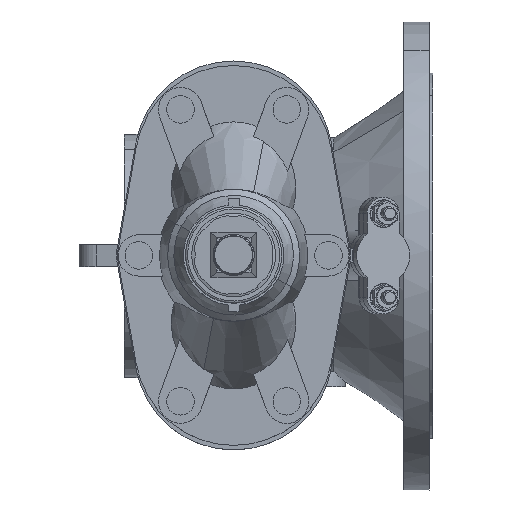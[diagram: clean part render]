
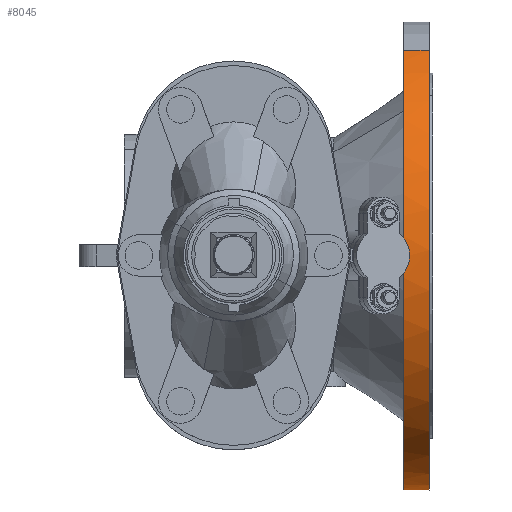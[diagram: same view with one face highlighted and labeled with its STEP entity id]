
A CAD part, top view. The second image highlights one B-rep face of the part: STEP entity #8045.
In plain terms, the highlighted cylindrical face has radius 170.3 mm (diameter 340.6 mm), a partial arc.
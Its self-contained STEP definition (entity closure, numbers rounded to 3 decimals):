
#7384=AXIS2_PLACEMENT_3D('Circle Axis2P3D',#7382,#7383,$) ;
#8006=AXIS2_PLACEMENT_3D('Cylinder Axis2P3D',#8003,#8004,#8005) ;
#8036=AXIS2_PLACEMENT_3D('Circle Axis2P3D',#8034,#8035,$) ;
#7382=CARTESIAN_POINT('Axis2P3D Location',(123.75,0.,0.)) ;
#7386=CARTESIAN_POINT('Vertex',(123.75,149.452,81.646)) ;
#7388=CARTESIAN_POINT('Vertex',(123.75,-149.452,-81.646)) ;
#8003=CARTESIAN_POINT('Axis2P3D Location',(27.125,0.,0.)) ;
#8012=CARTESIAN_POINT('Vertex',(142.25,-149.452,-81.646)) ;
#8014=CARTESIAN_POINT('Vertex',(142.25,149.452,81.646)) ;
#8017=CARTESIAN_POINT('Line Origine',(133.,-149.452,-81.646)) ;
#8022=CARTESIAN_POINT('Line Origine',(133.,149.452,81.646)) ;
#8034=CARTESIAN_POINT('Axis2P3D Location',(142.25,0.,0.)) ;
#7383=DIRECTION('Axis2P3D Direction',(1.,0.,0.)) ;
#8004=DIRECTION('Axis2P3D Direction',(1.,0.,0.)) ;
#8005=DIRECTION('Axis2P3D XDirection',(0.,0.878,0.479)) ;
#8018=DIRECTION('Vector Direction',(1.,0.,0.)) ;
#8023=DIRECTION('Vector Direction',(1.,0.,0.)) ;
#8035=DIRECTION('Axis2P3D Direction',(1.,0.,0.)) ;
#8019=VECTOR('Line Direction',#8018,1.) ;
#8024=VECTOR('Line Direction',#8023,1.) ;
#8040=ORIENTED_EDGE('',*,*,#8038,.F.) ;
#8041=ORIENTED_EDGE('',*,*,#8026,.T.) ;
#8042=ORIENTED_EDGE('',*,*,#7390,.T.) ;
#8043=ORIENTED_EDGE('',*,*,#8021,.F.) ;
#8045=ADVANCED_FACE('Schieber-DN200-PN16',(#8044),#8007,.T.) ;
#7385=CIRCLE('generated circle',#7384,170.3) ;
#8037=CIRCLE('generated circle',#8036,170.3) ;
#8007=CYLINDRICAL_SURFACE('generated cylinder',#8006,170.3) ;
#7390=EDGE_CURVE('',#7387,#7389,#7385,.T.) ;
#8021=EDGE_CURVE('',#8013,#7389,#8020,.F.) ;
#8026=EDGE_CURVE('',#8015,#7387,#8025,.F.) ;
#8038=EDGE_CURVE('',#8015,#8013,#8037,.T.) ;
#8039=EDGE_LOOP('',(#8040,#8041,#8042,#8043)) ;
#8044=FACE_OUTER_BOUND('',#8039,.T.) ;
#8020=LINE('Line',#8017,#8019) ;
#8025=LINE('Line',#8022,#8024) ;
#7387=VERTEX_POINT('',#7386) ;
#7389=VERTEX_POINT('',#7388) ;
#8013=VERTEX_POINT('',#8012) ;
#8015=VERTEX_POINT('',#8014) ;
